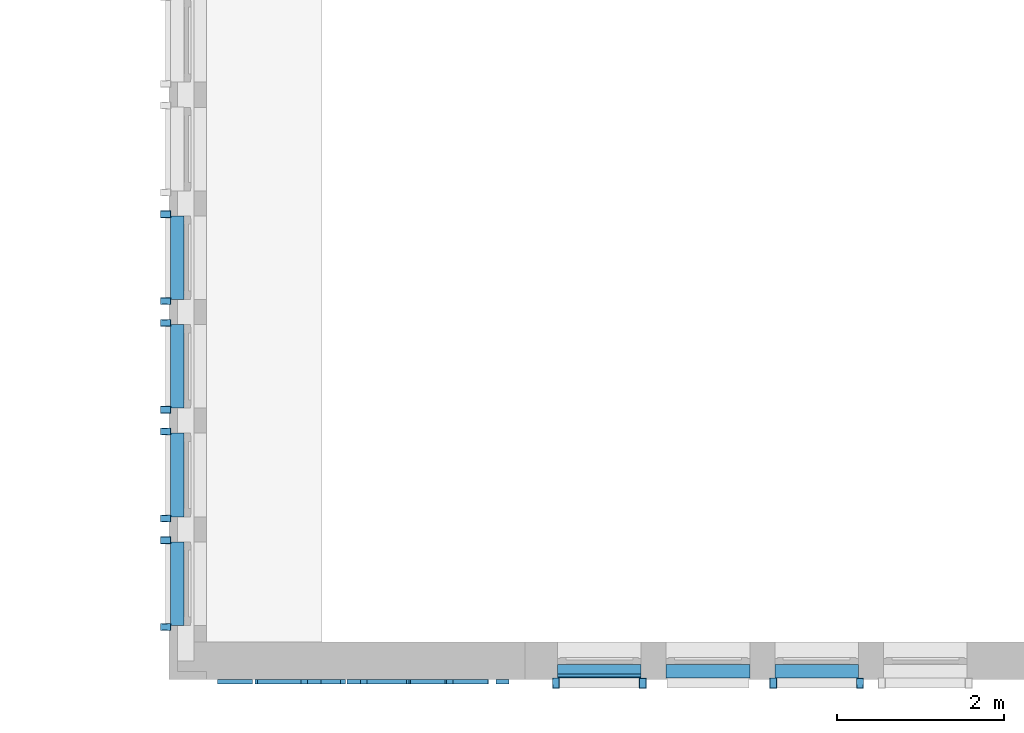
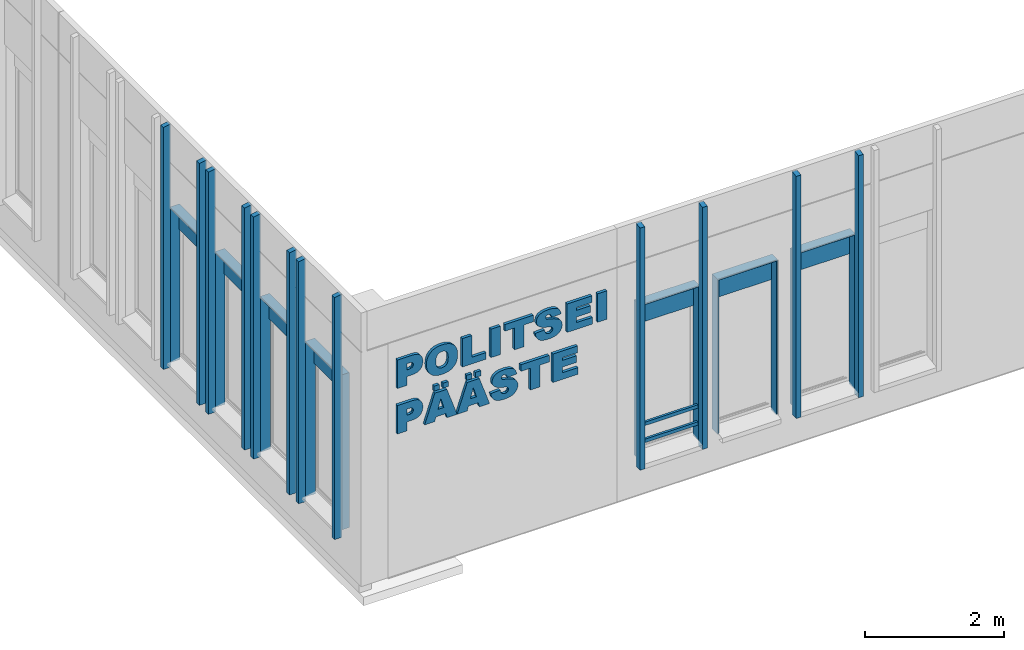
# One storey, part 29 of 33: 15 discrete accessories.
"""IFC2X3 building model written with IfcOpenShell, lengths in millimetres."""

from ifc_helpers import new_model, entity, si_unit, converted_unit, derived_unit, direction, frame, frame_2d, origin, origin_2d_with_axis, place, context, subcontext, project, spatial, polyline, rectangle, outline, extrude, faceted_brep, source, transform, mapped, material, material_list, type_object, type_shapes, element, save


model = new_model("IFC2X3")

# Units and contexts
model_context = context("Model", 3, precision=0.01, world=origin(), true_north=direction((6.12303176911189e-17, 1.0)))
body_context = subcontext(model_context, "Body", "Model", "MODEL_VIEW")
ifc_project = project(units=[si_unit("LENGTHUNIT", "METRE", prefix="MILLI"), si_unit("AREAUNIT", "SQUARE_METRE"), si_unit("VOLUMEUNIT", "CUBIC_METRE"), converted_unit("PLANEANGLEUNIT", "DEGREE", entity("IfcRatioMeasure", 0.0174532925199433), si_unit("PLANEANGLEUNIT", "RADIAN"), dimensions=[0, 0, 0, 0, 0, 0, 0]), si_unit("MASSUNIT", "GRAM", prefix="KILO"), derived_unit("MASSDENSITYUNIT", [(si_unit("MASSUNIT", "GRAM", prefix="KILO"), 1), (si_unit("LENGTHUNIT", "METRE"), -3)]), si_unit("TIMEUNIT", "SECOND"), si_unit("FREQUENCYUNIT", "HERTZ"), si_unit("THERMODYNAMICTEMPERATUREUNIT", "DEGREE_CELSIUS"), derived_unit("THERMALTRANSMITTANCEUNIT", [(si_unit("MASSUNIT", "GRAM", prefix="KILO"), 1), (si_unit("THERMODYNAMICTEMPERATUREUNIT", "KELVIN"), -1), (si_unit("TIMEUNIT", "SECOND"), -3)]), derived_unit("VOLUMETRICFLOWRATEUNIT", [(si_unit("LENGTHUNIT", "METRE"), 3), (si_unit("TIMEUNIT", "SECOND"), -1)]), si_unit("ELECTRICCURRENTUNIT", "AMPERE"), si_unit("ELECTRICVOLTAGEUNIT", "VOLT"), si_unit("POWERUNIT", "WATT"), si_unit("FORCEUNIT", "NEWTON", prefix="KILO"), si_unit("ILLUMINANCEUNIT", "LUX"), si_unit("LUMINOUSFLUXUNIT", "LUMEN"), si_unit("LUMINOUSINTENSITYUNIT", "CANDELA"), derived_unit("USERDEFINED", [(si_unit("MASSUNIT", "GRAM", prefix="KILO"), -1), (si_unit("LENGTHUNIT", "METRE"), -2), (si_unit("TIMEUNIT", "SECOND"), 3), (si_unit("LUMINOUSFLUXUNIT", "LUMEN"), 1)]), derived_unit("LINEARVELOCITYUNIT", [(si_unit("LENGTHUNIT", "METRE"), 1), (si_unit("TIMEUNIT", "SECOND"), -1)]), si_unit("PRESSUREUNIT", "PASCAL"), derived_unit("USERDEFINED", [(si_unit("LENGTHUNIT", "METRE"), -2), (si_unit("MASSUNIT", "GRAM", prefix="KILO"), 1), (si_unit("TIMEUNIT", "SECOND"), -2)])], contexts=[model_context])

# Site, building, storey
site_placement = place(None, origin())
site = spatial("IfcSite", under=ifc_project, at=site_placement, Name="Default", CompositionType="ELEMENT")
building_placement = place(site_placement, origin())
building = spatial("IfcBuilding", under=site, at=building_placement, CompositionType="ELEMENT")
storey_placement = place(building_placement, frame((0.0, 0.0, 4000.0)))
storey = spatial("IfcBuildingStorey", under=building, at=storey_placement, Name="2. KORRUS", CompositionType="ELEMENT", Elevation=4000.0)

# Discrete accessories
ifc_material_1 = material(Name="Must-al-komposiitplaat")
discrete_accessory_type_1 = type_object("IfcDiscreteAccessoryType", Name="hvp-piire", material=ifc_material_1)
shared_shape_1 = source(origin(), body_context, "Body", "SweptSolid", [
    extrude(outline(polyline([(-20.0, -30.0), (20.0, -30.0), (20.0, 30.0), (-20.0, 30.0), (-20.0, -30.0)]), holes=[polyline([(-17.0, -27.0), (-17.0, 27.0), (17.0, 27.0), (17.0, -27.0), (-17.0, -27.0)])]), frame((0.0, 20.0, 570.0), z_axis=(1.0, 0.0, 0.0), x_axis=(0.0, -1.0, 0.0)), (0.0, 0.0, 1.0), 1000.0),
    extrude(outline(polyline([(-20.0, -30.0), (20.0, -30.0), (20.0, 30.0), (-20.0, 30.0), (-20.0, -30.0)]), holes=[polyline([(-17.0, -27.0), (-17.0, 27.0), (17.0, 27.0), (17.0, -27.0), (-17.0, -27.0)])]), frame((0.0, 20.0, 270.0), z_axis=(1.0, 0.0, 0.0), x_axis=(0.0, -1.0, 0.0)), (0.0, 0.0, 1.0), 1000.0),
])
type_shapes(discrete_accessory_type_1, [shared_shape_1])
discrete_accessory_1_placement = place(storey_placement, frame((4200.0241844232, -420.0, 500.0)))
element("IfcDiscreteAccessory", 1, at=discrete_accessory_1_placement, inside=storey, type_object=discrete_accessory_type_1, material=ifc_material_1, Name="hädaväljapääsu-piire:hvp-piire", ObjectType="hvp-piire", context=body_context, shape_type="MappedRepresentation", body=[
    mapped(shared_shape_1, transform((0.0, 0.0, 0.0), scale=1.0)),
])
discrete_accessory_type_2 = type_object("IfcDiscreteAccessoryType", Name="akna-ylaplekid1000", material=ifc_material_1)
shared_shape_2 = source(origin(), body_context, "Body", "SweptSolid", [
    extrude(rectangle(XDim=20.0, YDim=959.999999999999, at=origin_2d_with_axis()), frame((0.0, -10.0, 2270.0), z_axis=(0.0, 0.0, 1.0), x_axis=(0.0, 1.0, 0.0)), (0.0, 0.0, 1.0), 409.999999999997),
    extrude(outline(polyline([(-500.0, -1370.0), (500.0, -1370.0), (500.0, 1360.0), (480.0, 1360.0), (480.0, -1350.0), (-480.0, -1350.0), (-480.0, 1360.0), (-500.0, 1360.0), (-500.0, -1370.0)])), frame((0.0, -160.0, 1330.0), z_axis=(0.0, 1.0, 0.0), x_axis=(1.0, 0.0, 0.0)), (0.0, 0.0, 1.0), 160.0),
])
type_shapes(discrete_accessory_type_2, [shared_shape_2])
for number, where, z_axis, x_axis, name in (
    (2, (-270.0, 4600.08656868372, 500.0), (0.0, 0.0, 1.0), (0.0, -1.0, 0.0), "akna-ylaplekid:akna-ylaplekid1000"),
    (3, (-270.0, 3300.08656868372, 500.0), (0.0, 0.0, 1.0), (0.0, -1.0, 0.0), "akna-ylaplekid:akna-ylaplekid1000"),
    (4, (-270.0, 2000.08656868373, 500.0), (0.0, 0.0, 1.0), (0.0, -1.0, 0.0), "akna-ylaplekid:akna-ylaplekid1000"),
    (5, (-270.0, 700.086568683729, 500.0), (0.0, 0.0, 1.0), (0.0, -1.0, 0.0), "akna-ylaplekid:akna-ylaplekid1000"),
):
    element("IfcDiscreteAccessory", number, at=place(storey_placement, frame(where, z_axis=z_axis, x_axis=x_axis)), inside=storey, type_object=discrete_accessory_type_2, material=ifc_material_1, Name=name, ObjectType="akna-ylaplekid1000", context=body_context, shape_type="MappedRepresentation", body=[
        mapped(shared_shape_2, transform((0.0, 0.0, 0.0), scale=1.0)),
    ])
for number, where, name in (
    (6, (4700.0241844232, -270.0, 500.0), "akna-ylaplekid:akna-ylaplekid1000"),
    (7, (6000.0241844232, -270.0, 500.0), "akna-ylaplekid:akna-ylaplekid1000"),
    (8, (7300.0241844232, -270.0, 500.0), "akna-ylaplekid:akna-ylaplekid1000"),
):
    element("IfcDiscreteAccessory", number, at=place(storey_placement, frame(where)), inside=storey, type_object=discrete_accessory_type_2, material=ifc_material_1, Name=name, ObjectType="akna-ylaplekid1000", context=body_context, shape_type="MappedRepresentation", body=[
        mapped(shared_shape_2, transform((0.0, 0.0, 0.0), scale=1.0)),
    ])
ifc_material_2 = material(Name="Default New Material-must-varv")
discrete_accessory_type_3 = type_object("IfcDiscreteAccessoryType", Name="akna-ylaplekid1000", material=ifc_material_2)
shared_shape_3 = source(origin(), body_context, "Body", "Brep", [
    faceted_brep([(1120.0, 0.0, 0.0), (1040.0, 0.0, 0.0), (1040.0, 120.0, 0.0), (1044.0, 120.0, 0.0), (1044.0, 4.0, 0.0), (1116.0, 4.0, 0.0), (1116.0, 120.0, 0.0), (1120.0, 120.0, 0.0), (1120.0, 120.0, 4283.65923768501), (1120.0, 0.0, 4262.5), (1116.0, 119.999696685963, 4279.59747775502), (1044.0, 120.0, 4279.59575757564), (1040.0, 120.0, 4283.65923768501), (1116.0, 3.99969668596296, 4259.14354799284), (1116.0, 120.0, 4279.59575757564), (1044.0, 4.0, 4259.14360147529), (1116.0, 4.0, 4259.14182781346), (1044.0, 119.999696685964, 4279.59747775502), (1044.0, 4.0, 4259.14182781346), (1040.0, 0.0, 4262.5), (1116.0, 4.0, 4259.14360147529), (1044.0, 3.99969668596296, 4259.14354799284)], [[[0, 1, 2, 3, 4, 5, 6, 7]], [[0, 7, 8, 9]], [[8, 7, 6, 10, 11, 3, 2, 12]], [[6, 5, 13, 14]], [[5, 4, 15, 16]], [[4, 3, 17, 18]], [[12, 2, 1, 19]], [[19, 1, 0, 9]], [[17, 10, 20, 21]], [[12, 19, 9, 8]]]),
    faceted_brep([(80.0, 0.0, 0.0), (0.0, 0.0, 0.0), (0.0, 120.0, 0.0), (4.0, 120.0, 0.0), (4.0, 4.0, 0.0), (76.0, 4.0, 0.0), (76.0, 120.0, 0.0), (80.0, 120.0, 0.0), (80.0, 120.0, 4283.65746402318), (80.0, 0.0, 4262.49822633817), (76.0, 120.0, 4279.59575757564), (4.0, 120.0, 4279.59575757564), (0.0, 120.0, 4283.65746402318), (76.0, 4.0, 4259.14182781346), (4.0, 4.0, 4259.14182781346), (0.0, 0.0, 4262.49822633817)], [[[0, 1, 2, 3, 4, 5, 6, 7]], [[0, 7, 8, 9]], [[8, 7, 6, 10, 11, 3, 2, 12]], [[6, 5, 13, 10]], [[5, 4, 14, 13]], [[4, 3, 11, 14]], [[12, 2, 1, 15]], [[15, 1, 0, 9]], [[11, 10, 13, 14]], [[12, 15, 9, 8]]]),
])
type_shapes(discrete_accessory_type_3, [shared_shape_3])
for number, where, z_axis, x_axis in (
    (9, (-550.0, 5160.03281879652, 387.499999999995), (0.0, 0.0, 1.0), (0.0, -1.0, 0.0)),
    (10, (-550.0, 3860.03281879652, 387.499999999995), (0.0, 0.0, 1.0), (0.0, -1.0, 0.0)),
    (11, (-550.0, 2560.03281879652, 387.499999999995), (0.0, 0.0, 1.0), (0.0, -1.0, 0.0)),
    (12, (-550.0, 1260.03281879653, 387.499999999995), (0.0, 0.0, 1.0), (0.0, -1.0, 0.0)),
):
    element("IfcDiscreteAccessory", number, at=place(storey_placement, frame(where, z_axis=z_axis, x_axis=x_axis)), inside=storey, type_object=discrete_accessory_type_3, material=ifc_material_2, Name="akna-ylaplekid_1k-U:akna-ylaplekid1000", ObjectType="akna-ylaplekid1000", context=body_context, shape_type="MappedRepresentation", body=[
        mapped(shared_shape_3, transform((0.0, 0.0, 0.0), scale=1.0)),
    ])
discrete_accessory_type_4 = type_object("IfcDiscreteAccessoryType", Name="akna-ylaplekid1000", material=ifc_material_2)
shared_shape_4 = source(origin(), body_context, "Body", "Brep", [
    faceted_brep([(1120.0, 120.0, 0.0), (1120.0, 0.0, 0.0), (1116.0, 0.0, 0.0), (1116.0, 116.0, 0.0), (1044.0, 116.0, 0.0), (1044.0, 0.0, 0.0), (1040.0, 0.0, 0.0), (1040.0, 120.0, 0.0), (1120.0, 120.0, 4262.5), (1120.0, 0.0, 4283.65923768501), (1040.0, 0.0, 4283.65923768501), (1044.0, 0.000303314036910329, 4279.59747775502), (1116.0, 0.0, 4279.59575757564), (1116.0, 0.000303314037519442, 4279.59747775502), (1116.0, 116.0, 4259.14182781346), (1116.0, 116.0, 4259.14360147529), (1044.0, 116.0, 4259.14182781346), (1044.0, 116.000303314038, 4259.14354799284), (1044.0, 0.0, 4279.59575757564), (1040.0, 120.0, 4262.5), (1044.0, 116.0, 4259.14360147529), (1116.0, 116.000303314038, 4259.14354799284)], [[[0, 1, 2, 3, 4, 5, 6, 7]], [[0, 8, 9, 1]], [[9, 10, 6, 5, 11, 12, 2, 1]], [[2, 13, 14, 3]], [[3, 15, 16, 4]], [[4, 17, 18, 5]], [[10, 19, 7, 6]], [[19, 8, 0, 7]], [[11, 20, 21, 13]], [[10, 9, 8, 19]]]),
    faceted_brep([(80.0, 120.0, 0.0), (80.0, 0.0, 0.0), (76.0, 0.0, 0.0), (76.0, 116.0, 0.0), (4.0, 116.0, 0.0), (4.0, 0.0, 0.0), (0.0, 0.0, 0.0), (0.0, 120.0, 0.0), (80.0, 120.0, 4262.49822633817), (80.0, 0.0, 4283.65746402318), (0.0, 0.0, 4283.65746402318), (4.0, 0.0, 4279.59575757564), (76.0, 0.0, 4279.59575757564), (76.0, 116.0, 4259.14182781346), (4.0, 116.0, 4259.14182781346), (0.0, 120.0, 4262.49822633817)], [[[0, 1, 2, 3, 4, 5, 6, 7]], [[0, 8, 9, 1]], [[9, 10, 6, 5, 11, 12, 2, 1]], [[2, 12, 13, 3]], [[3, 13, 14, 4]], [[4, 14, 11, 5]], [[10, 15, 7, 6]], [[15, 8, 0, 7]], [[11, 14, 13, 12]], [[10, 9, 8, 15]]]),
])
type_shapes(discrete_accessory_type_4, [shared_shape_4])
for number, where, z_axis, x_axis in (
    (13, (5260.02418442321, -430.0, 387.5), (0.0, 0.0, 1.0), (-1.0, 0.0, 0.0)),
    (14, (7860.02418442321, -430.0, 387.499999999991), (0.0, 0.0, 1.0), (-1.0, 0.0, 0.0)),
):
    element("IfcDiscreteAccessory", number, at=place(storey_placement, frame(where, z_axis=z_axis, x_axis=x_axis)), inside=storey, type_object=discrete_accessory_type_4, material=ifc_material_2, Name="akna-ylaplekid_1k-U:akna-ylaplekid1000", ObjectType="akna-ylaplekid1000", context=body_context, shape_type="MappedRepresentation", body=[
        mapped(shared_shape_4, transform((0.0, 0.0, 0.0), scale=1.0)),
    ])
ifc_material_3 = material(Name="Default New Material-sinine-valguskast")
ifc_material_4 = material(Name="Default New Material-valge-valguskast")
ifc_material_list_1 = material_list([ifc_material_3, ifc_material_4])
ifc_material_list_2 = material_list([ifc_material_3, ifc_material_4])
discrete_accessory_type_5 = type_object("IfcDiscreteAccessoryType", Name="valguskiri", material=ifc_material_list_2)
shared_shape_5 = source(origin(), body_context, "Body", "SweptSolid", [
    extrude(outline(polyline([(-304.638224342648, -202.289355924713), (-48.5299734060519, -202.289355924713), (-9.33933881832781, -199.555907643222), (24.6053809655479, -191.355562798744), (53.3041859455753, -177.688321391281), (76.7570761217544, -158.554183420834), (94.9832672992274, -134.385504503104), (108.001975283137, -105.614640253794), (115.813200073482, -72.241590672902), (118.416941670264, -34.2663557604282), (115.606630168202, 4.96751438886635), (107.175695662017, 39.6568466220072), (93.1241381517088, 69.8016409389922), (73.4519576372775, 95.4018973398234), (48.0150355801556, 115.813886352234), (16.6692534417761, 130.393878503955), (-20.5853887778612, 139.141873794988), (-63.7488910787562, 142.057872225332), (-147.222348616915, 142.057872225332), (-147.222348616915, 299.473747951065), (-304.638224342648, 299.473747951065), (-304.638224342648, -202.289355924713)]), holes=[polyline([(-147.222348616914, 23.9959654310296), (-112.633899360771, 23.9959654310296), (-77.968586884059, 20.2296676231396), (-55.4476632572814, 8.93077419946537), (-43.1111163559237, -8.24815559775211), (-38.998934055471, -29.6545625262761), (-42.5730738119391, -50.6958691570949), (-53.2954930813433, -68.3167624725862), (-62.0194686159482, -75.2776878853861), (-73.8948361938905, -80.2497774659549), (-107.099747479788, -84.2274491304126), (-147.222348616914, -84.2274491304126), (-147.222348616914, 23.9959654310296)])]), frame((432.928279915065, -500.0, 11499.5405360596), z_axis=(0.0, 1.0, 0.0), x_axis=(1.0, 0.0, 0.0)), (0.0, 0.0, 1.0), 50.0),
    extrude(outline(polyline([(15.5385939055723, -264.575294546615), (74.0017569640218, -264.575294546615), (126.281692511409, -255.517303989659), (172.378400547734, -237.401322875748), (212.291881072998, -210.227351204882), (245.072908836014, -174.850400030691), (269.772258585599, -132.125480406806), (286.389930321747, -82.0525923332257), (294.925924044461, -24.6317358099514), (295.063146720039, 34.779901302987), (286.247621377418, 87.6055786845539), (268.4793480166, 133.845296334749), (241.758326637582, 173.499054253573), (206.871660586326, 205.873104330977), (164.606453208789, 230.273698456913), (114.962704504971, 246.700836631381), (57.9404144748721, 255.15451885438), (15.705824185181, 256.402661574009), (-22.8435340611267, 253.660981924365), (-57.7076602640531, 246.929479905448), (-88.8865544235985, 236.208155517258), (-116.772998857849, 221.723402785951), (-141.759775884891, 203.701615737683), (-163.846885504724, 182.142794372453), (-183.034327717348, 157.04693869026), (-198.938261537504, 128.328003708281), (-211.174845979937, 95.8999444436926), (-219.744081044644, 59.7627608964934), (-224.64596673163, 19.9164530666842), (-225.939907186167, -20.8456018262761), (-223.572504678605, -58.1969063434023), (-217.543759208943, -92.1374604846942), (-207.853670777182, -122.667264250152), (-194.26687047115, -150.319047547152), (-176.547989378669, -175.625540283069), (-154.697027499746, -198.586742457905), (-128.713984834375, -219.202654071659), (-98.6613863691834, -236.620893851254), (-64.6017570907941, -249.989080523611), (-26.5350969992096, -259.307214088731), (15.5385939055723, -264.575294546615)]), holes=[polyline([(27.0895058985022, -107.583784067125), (-7.9871600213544, -103.259228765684), (-37.4810189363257, -95.8579754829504), (-61.3920708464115, -85.3800242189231), (-79.720315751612, -71.8253749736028), (-93.0957933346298, -55.6389990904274), (-102.148543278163, -37.2658679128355), (-106.878565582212, -16.7059814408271), (-107.285860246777, 6.0406603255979), (-103.556311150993, 29.036874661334), (-95.9773238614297, 48.9656706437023), (-84.5488983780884, 65.8270482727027), (-69.2710347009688, 79.6210075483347), (-48.977420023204, 89.9630849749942), (-22.5017415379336, 96.4688170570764), (10.1560007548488, 99.1382037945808), (48.9958068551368, 97.9712451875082), (81.8240834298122, 93.7928511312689), (109.632071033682, 86.4578353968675), (132.419769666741, 75.9661979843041), (150.187179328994, 62.3179388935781), (163.315912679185, 45.9859417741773), (172.187582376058, 27.4430902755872), (176.802188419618, 6.68938439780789), (177.159730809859, -16.2751758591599), (173.481181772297, -37.9890204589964), (165.829590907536, -57.1369476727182), (154.204958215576, -73.7189575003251), (138.607283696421, -87.7350499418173), (118.449276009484, -98.5254461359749), (93.1436438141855, -105.430367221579), (62.6903871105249, -108.449813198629), (27.0895058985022, -107.583784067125)])]), frame((873.098025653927, -500.0, 11415.7300927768), z_axis=(0.0, 1.0, 0.0), x_axis=(0.0733783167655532, 0.0, 0.997304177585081)), (0.0, 0.0, 1.0), 50.0),
    extrude(outline(polyline([(-183.65185501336, -295.154766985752), (-26.2359792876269, -295.154766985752), (-26.2359792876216, 88.5464300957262), (209.88783430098, 88.546430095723), (209.887834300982, 206.608336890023), (-183.651855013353, 206.608336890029), (-183.65185501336, -295.154766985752)])), frame((1394.1760562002, -500.0, 11406.6751249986), z_axis=(0.0, 1.0, 0.0), x_axis=(1.0, 0.0, 0.0)), (0.0, 0.0, 1.0), 50.0),
    extrude(rectangle(XDim=50.0, YDim=157.415875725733, at=frame_2d((0.0, -1.35003119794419e-13), x_axis=(1.0, 0.0))), frame((1761.47976622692, -475.0, 11200.0667881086), z_axis=(0.0, 0.0, 1.0), x_axis=(0.0, 1.0, 0.0)), (0.0, 0.0, 1.0), 501.763103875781),
    extrude(outline(polyline([(-236.123813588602, -184.471729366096), (236.123813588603, -184.471729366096), (236.123813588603, -66.4098225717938), (78.707937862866, -66.4098225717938), (78.707937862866, 317.291374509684), (-78.7079378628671, 317.291374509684), (-78.7079378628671, -66.409822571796), (-236.123813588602, -66.409822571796), (-236.123813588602, -184.471729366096)])), frame((2155.01945554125, -500.0, 11517.3581626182), z_axis=(0.0, 1.0, 0.0), x_axis=(1.0, 0.0, 0.0)), (0.0, 0.0, 1.0), 50.0),
    extrude(outline(polyline([(-235.356388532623, 66.2998184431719), (-77.6522394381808, 66.2998184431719), (-73.3108124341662, 99.520381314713), (-64.0573332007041, 124.105892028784), (-53.2615699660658, 138.639508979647), (-39.9824331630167, 149.357781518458), (-24.2199227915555, 156.260709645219), (-5.97403885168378, 159.34829335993), (19.9492868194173, 156.932913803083), (39.716887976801, 146.174912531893), (52.5523966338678, 129.722422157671), (57.6794448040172, 110.223575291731), (55.5998395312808, 91.1546828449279), (46.9454568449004, 73.8438195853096), (37.855388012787, 65.4775404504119), (22.6711077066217, 56.9732877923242), (-25.9800873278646, 39.5508619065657), (-72.0731715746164, 24.0736641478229), (-110.806793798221, 7.23246530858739), (-142.180953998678, -10.972734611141), (-166.195652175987, -30.5419356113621), (-183.971815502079, -51.8798987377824), (-196.160744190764, -75.516958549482), (-202.762438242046, -101.453115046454), (-203.776897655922, -129.688368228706), (-196.005125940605, -166.795753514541), (-177.353712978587, -201.088299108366), (-163.977455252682, -216.535873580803), (-147.939915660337, -229.993471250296), (-107.880990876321, -250.938736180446), (-83.2122390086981, -258.069565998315), (-54.5874719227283, -262.496744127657), (14.5301079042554, -263.240145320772), (58.7848625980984, -258.337168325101), (97.1801818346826, -249.341982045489), (129.716065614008, -236.254586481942), (156.392513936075, -219.074981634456), (177.463839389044, -197.393124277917), (193.184354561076, -170.798971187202), (203.55405945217, -139.292522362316), (208.572954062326, -102.873777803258), (50.896676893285, -103.334114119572), (45.9340131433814, -134.878952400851), (35.5792556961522, -156.855253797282), (19.6149735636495, -170.123226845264), (-2.17626424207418, -175.543080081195), (-20.2303413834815, -173.690795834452), (-33.5760860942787, -165.662632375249), (-42.0729399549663, -153.14416686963), (-45.5803445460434, -137.820976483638), (-43.3889518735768, -115.511148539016), (-31.2836202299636, -104.96020120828), (-0.492859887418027, -93.9709453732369), (84.5428110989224, -66.3756413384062), (141.02369451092, -40.2782285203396), (177.115103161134, -12.546936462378), (200.982349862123, 19.9500052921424), (213.66696051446, 56.5441200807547), (216.21046101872, 96.5669312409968), (213.107077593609, 120.399459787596), (206.751351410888, 143.10139589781), (197.143282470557, 164.672739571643), (184.282870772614, 185.113490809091), (168.553392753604, 203.657565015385), (150.338124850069, 219.538877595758), (129.637067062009, 232.757428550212), (106.450219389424, 243.313217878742), (80.5475541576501, 251.110501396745), (51.6990436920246, 256.053534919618), (-14.8355129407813, 257.376851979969), (-73.2240123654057, 250.703698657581), (-121.490132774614, 238.367599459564), (-159.633874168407, 220.368554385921), (-187.655236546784, 196.706563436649), (-207.856688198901, 168.686043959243), (-222.540697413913, 137.611413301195), (-231.70726419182, 103.482671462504), (-235.356388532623, 66.2998184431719)])), frame((2651.57800850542, -500.0, 11448.0312810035), z_axis=(0.0, 1.0, 0.0), x_axis=(0.998172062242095, 0.0, 0.0604361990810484)), (0.0, 0.0, 1.0), 50.0),
    extrude(outline(polyline([(-257.440546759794, -242.682808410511), (155.776127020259, -242.682808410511), (155.776127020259, -124.620901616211), (-100.024671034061, -124.620901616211), (-100.024671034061, -75.4284404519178), (136.099142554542, -75.4284404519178), (136.099142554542, 42.6334663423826), (-100.024671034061, 42.6334663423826), (-100.024671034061, 141.018388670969), (165.614619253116, 141.018388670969), (165.614619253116, 259.080295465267), (-257.440546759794, 259.080295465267), (-257.440546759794, -242.682808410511)])), frame((3209.37787316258, -500.0, 11459.1470835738), z_axis=(0.0, 1.0, 0.0), x_axis=(1.0, 0.0, 0.0)), (0.0, 0.0, 1.0), 50.0),
    extrude(rectangle(XDim=50.0, YDim=157.415875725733, at=origin_2d_with_axis()), frame((3542.24686037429, -475.0, 11200.0667881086), z_axis=(0.0, 0.0, 1.0), x_axis=(0.0, 1.0, 0.0)), (0.0, 0.0, 1.0), 501.763103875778),
    extrude(outline(polyline([(-304.638224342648, -202.289355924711), (-48.5299734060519, -202.289355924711), (-9.33933881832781, -199.55590764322), (24.6053809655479, -191.355562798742), (53.3041859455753, -177.688321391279), (76.7570761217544, -158.554183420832), (94.9832672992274, -134.385504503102), (108.001975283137, -105.614640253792), (115.813200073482, -72.2415906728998), (118.416941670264, -34.266355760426), (115.606630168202, 4.96751438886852), (107.175695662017, 39.6568466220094), (93.1241381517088, 69.8016409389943), (73.4519576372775, 95.4018973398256), (48.0150355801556, 115.813886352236), (16.6692534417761, 130.393878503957), (-20.5853887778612, 139.141873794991), (-63.7488910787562, 142.057872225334), (-147.222348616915, 142.057872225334), (-147.222348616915, 299.473747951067), (-304.638224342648, 299.473747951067), (-304.638224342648, -202.289355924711)]), holes=[polyline([(-147.222348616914, 23.9959654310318), (-112.633899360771, 23.9959654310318), (-77.968586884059, 20.2296676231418), (-55.4476632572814, 8.93077419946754), (-43.1111163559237, -8.24815559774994), (-38.998934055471, -29.6545625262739), (-42.5730738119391, -50.6958691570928), (-53.2954930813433, -68.316762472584), (-62.0194686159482, -75.2776878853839), (-73.8948361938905, -80.2497774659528), (-107.099747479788, -84.2274491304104), (-147.222348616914, -84.2274491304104), (-147.222348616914, 23.9959654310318)])]), frame((432.928279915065, -500.0, 10699.2242613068), z_axis=(0.0, 1.0, 0.0), x_axis=(1.0, 0.0, 0.0)), (0.0, 0.0, 1.0), 50.0),
    extrude(rectangle(XDim=50.0, YDim=88.5464300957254, at=frame_2d((0.0, 6.75015598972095e-14), x_axis=(1.0, 0.0))), frame((782.549789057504, -475.0, 10940.8675861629), z_axis=(0.0, 0.0, 1.0), x_axis=(0.0, 1.0, 0.0)), (0.0, 0.0, 1.0), 88.5464300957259),
    extrude(outline(polyline([(-235.356388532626, 66.299818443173), (-77.6522394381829, 66.299818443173), (-73.3108124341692, 99.5203813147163), (-64.0573332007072, 124.105892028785), (-53.2615699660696, 138.639508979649), (-39.9824331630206, 149.357781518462), (-24.2199227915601, 156.260709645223), (-5.97403885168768, 159.348293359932), (19.9492868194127, 156.932913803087), (39.7168879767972, 146.174912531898), (52.5523966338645, 129.722422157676), (57.6794448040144, 110.223575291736), (55.5998395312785, 91.1546828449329), (46.9454568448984, 73.8438195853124), (37.8553880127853, 65.4775404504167), (22.6711077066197, 56.9732877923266), (-25.980087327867, 39.5508619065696), (-72.0731715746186, 24.0736641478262), (-110.806793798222, 7.23246530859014), (-142.180953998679, -10.9727346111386), (-166.195652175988, -30.5419356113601), (-183.971815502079, -51.8798987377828), (-196.160744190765, -75.5169585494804), (-202.762438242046, -101.453115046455), (-203.776897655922, -129.688368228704), (-196.005125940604, -166.795753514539), (-177.353712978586, -201.088299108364), (-163.977455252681, -216.535873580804), (-147.939915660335, -229.993471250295), (-107.880990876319, -250.938736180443), (-83.2122390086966, -258.069565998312), (-54.5874719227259, -262.496744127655), (14.5301079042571, -263.240145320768), (58.7848625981, -258.337168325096), (97.1801818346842, -249.341982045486), (129.71606561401, -236.254586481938), (156.392513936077, -219.074981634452), (177.463839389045, -197.39312427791), (193.184354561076, -170.798971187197), (203.55405945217, -139.292522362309), (208.572954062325, -102.873777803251), (50.8966768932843, -103.334114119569), (45.9340131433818, -134.878952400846), (35.5792556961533, -156.855253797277), (19.6149735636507, -170.123226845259), (-2.17626424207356, -175.543080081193), (-20.2303413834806, -173.69079583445), (-33.5760860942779, -165.662632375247), (-42.0729399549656, -153.144166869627), (-45.5803445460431, -137.820976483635), (-43.388951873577, -115.511148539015), (-31.2836202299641, -104.960201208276), (-0.492859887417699, -93.9709453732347), (84.5428110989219, -66.3756413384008), (141.023694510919, -40.2782285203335), (177.115103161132, -12.5469364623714), (200.982349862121, 19.9500052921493), (213.666960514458, 56.5441200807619), (216.210461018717, 96.5669312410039), (213.107077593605, 120.399459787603), (206.751351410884, 143.101395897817), (197.143282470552, 164.672739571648), (184.28287077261, 185.113490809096), (168.5533927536, 203.657565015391), (150.338124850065, 219.538877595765), (129.637067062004, 232.757428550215), (106.450219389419, 243.313217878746), (80.5475541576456, 251.110501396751), (51.6990436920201, 256.053534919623), (-14.8355129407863, 257.376851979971), (-73.224012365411, 250.703698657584), (-121.49013277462, 238.367599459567), (-159.633874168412, 220.368554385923), (-187.655236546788, 196.706563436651), (-207.856688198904, 168.686043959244), (-222.540697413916, 137.611413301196), (-231.707264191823, 103.482671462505), (-235.356388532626, 66.299818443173)])), frame((1913.69109104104, -500.0, 10647.7150062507), z_axis=(0.0, 1.0, 0.0), x_axis=(0.998172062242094, 0.0, 0.0604361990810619)), (0.0, 0.0, 1.0), 50.0),
    extrude(outline(polyline([(-236.123813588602, -184.471729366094), (236.123813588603, -184.471729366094), (236.123813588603, -66.4098225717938), (78.7079378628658, -66.4098225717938), (78.7079378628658, 317.291374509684), (-78.7079378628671, 317.291374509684), (-78.7079378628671, -66.409822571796), (-236.123813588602, -66.409822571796), (-236.123813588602, -184.471729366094)])), frame((2420.65874582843, -500.0, 10717.0418878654), z_axis=(0.0, 1.0, 0.0), x_axis=(1.0, 0.0, 0.0)), (0.0, 0.0, 1.0), 50.0),
    extrude(outline(polyline([(-257.440546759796, -242.682808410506), (155.776127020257, -242.682808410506), (155.776127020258, -124.620901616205), (-100.024671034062, -124.620901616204), (-100.024671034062, -75.4284404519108), (136.099142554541, -75.428440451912), (136.099142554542, 42.6334663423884), (-100.024671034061, 42.6334663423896), (-100.024671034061, 141.018388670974), (165.614619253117, 141.018388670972), (165.614619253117, 259.080295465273), (-257.440546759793, 259.080295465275), (-257.440546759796, -242.682808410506)])), frame((2973.25405957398, -500.0, 10658.830808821), z_axis=(0.0, 1.0, 0.0), x_axis=(1.0, 0.0, 0.0)), (0.0, 0.0, 1.0), 50.0),
    extrude(outline(polyline([(-80.6871657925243, 66.4098225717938), (-103.438679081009, 145.117760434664), (-270.693047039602, 145.117760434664), (-101.440235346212, -356.645343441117), (101.171214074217, -356.645343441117), (270.424025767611, 145.117760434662), (103.169657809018, 145.117760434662), (81.4942296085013, 66.4098225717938), (-80.6871657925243, 66.4098225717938)]), holes=[polyline([(-50.8642362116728, -51.6520842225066), (48.9042240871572, -51.6520842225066), (-0.134510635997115, -228.898670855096), (-50.8642362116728, -51.6520842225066)])]), frame((1392.40179685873, -500.0, 10544.8682737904), z_axis=(0.0, -1.0, 0.0), x_axis=(-1.0, 0.0, 0.0)), (0.0, 0.0, -1.0), 50.0),
    extrude(outline(polyline([(-168.134493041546, -59.0721336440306), (-214.579958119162, -219.748337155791), (314.449072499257, -196.48868453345), (370.712972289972, -1.84600417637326), (-64.3152181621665, 300.086438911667), (-110.760683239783, 139.410235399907), (-41.1674795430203, 96.730618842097), (-86.2042126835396, -59.0721336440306), (-168.134493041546, -59.0721336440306)]), holes=[polyline([(35.495920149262, -63.2071829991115), (63.2009815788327, 32.6373538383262), (219.858664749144, -63.6929128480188), (35.495920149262, -63.2071829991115)])]), frame((851.284724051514, -500.0, 10544.8682737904), z_axis=(0.0, -1.0, 0.0), x_axis=(-0.27769358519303, 0.0, 0.960669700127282)), (0.0, 0.0, -1.0), 50.0),
    extrude(rectangle(XDim=50.0, YDim=88.5464300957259, at=frame_2d((0.0, 1.35003119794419e-13), x_axis=(1.0, 0.0))), frame((1323.66686186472, -475.0, 10940.8675861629), z_axis=(0.0, 0.0, 1.0), x_axis=(0.0, 1.0, 0.0)), (0.0, 0.0, 1.0), 88.5464300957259),
    extrude(rectangle(XDim=50.0, YDim=88.5464300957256, at=origin_2d_with_axis()), frame((1471.24424535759, -475.0, 10940.8675861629), z_axis=(0.0, 0.0, 1.0), x_axis=(0.0, 1.0, 0.0)), (0.0, 0.0, 1.0), 88.5464300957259),
    extrude(rectangle(XDim=50.0, YDim=88.5464300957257, at=frame_2d((0.0, -6.75015598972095e-14), x_axis=(1.0, 0.0))), frame((930.12717255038, -475.0, 10940.8675861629), z_axis=(0.0, 0.0, 1.0), x_axis=(0.0, 1.0, 0.0)), (0.0, 0.0, 1.0), 88.5464300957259),
])
type_shapes(discrete_accessory_type_5, [shared_shape_5])
discrete_accessory_2_placement = place(storey_placement, frame((0.0, 0.0, -8000.0)))
element("IfcDiscreteAccessory", 15, at=discrete_accessory_2_placement, inside=storey, type_object=discrete_accessory_type_5, material=ifc_material_list_1, Name="valguskiri:valguskiri", ObjectType="valguskiri", context=body_context, shape_type="MappedRepresentation", body=[
    mapped(shared_shape_5, transform((0.0, 0.0, 0.0), scale=1.0)),
])

save(model, "model.ifc")
